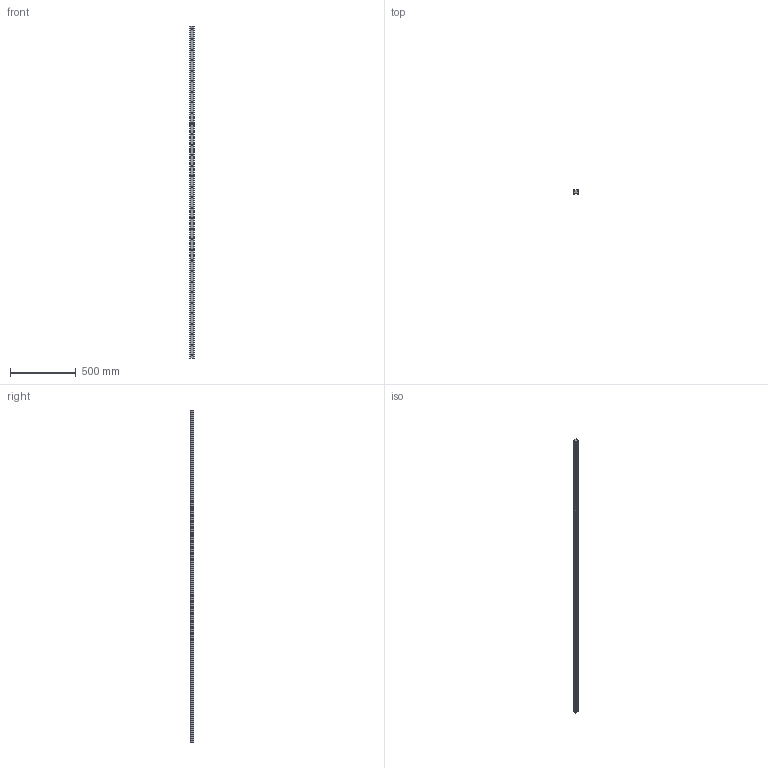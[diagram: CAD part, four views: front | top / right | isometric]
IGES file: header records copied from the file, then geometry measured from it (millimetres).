
Start section: SolidWorks IGES file using analytic representation for surfaces
Global section: file name: C:\Users\IanO\Desktop\Temp File\GENERAL\L1016_v2\L1016.RF35_v2\L1016.RF35_v2_20190612_IGES\L1016.RF35-2520.igs; native system: SolidWorks 2017; preprocessor: SolidWorks 2017; author: IanO; date: 190613.173046; units: millimetre
Bounding box: 34 x 26 x 2520 mm (x, y, z)
Surface area: 328545.3 mm2 (no closed solid volume)
Topology: 0 solids, 0 shells, 250 faces, 4008 edges, 3944 vertices
Faces by surface type: revolution 196, bspline 54
